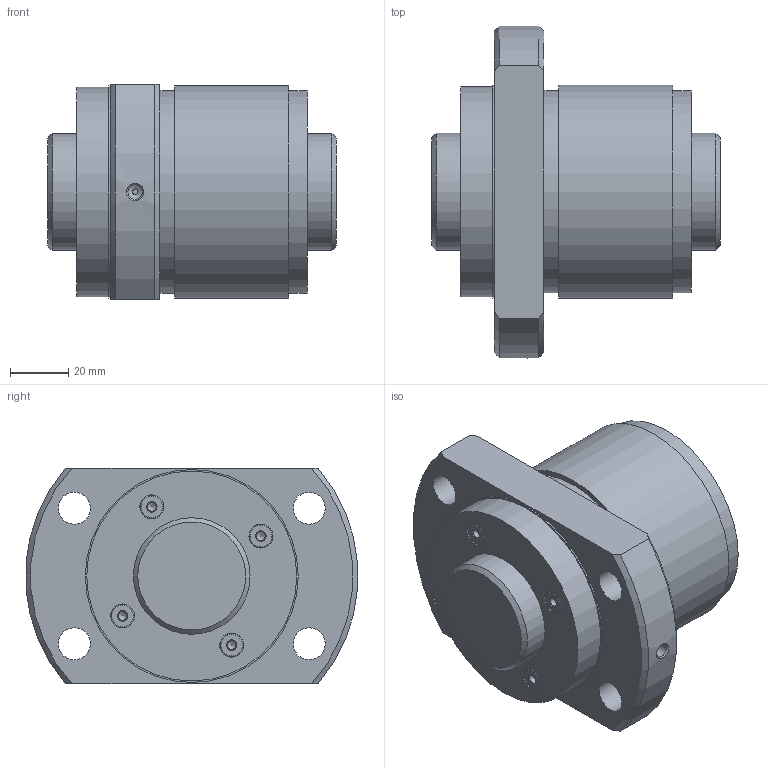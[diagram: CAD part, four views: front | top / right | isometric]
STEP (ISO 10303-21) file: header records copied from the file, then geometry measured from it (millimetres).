
FILE_DESCRIPTION(/* description */ ('STEP AP203'),/* implementation_level */ '2;1');
FILE_NAME(/* name */ 'WGF4080-1G1+99LC3_0_13_0_0',/* time_stamp */ '2025-01-16T06:27:02+01:00',/* author */ ('License CC BY-ND 4.0'),/* organization */ ('CADENAS'),/* preprocessor_version */ 'ST-DEVELOPER v19.3',/* originating_system */ 'PARTsolutions',/* authorisation */ ' ');
FILE_SCHEMA (('CONFIG_CONTROL_DESIGN'));
Length unit declared in the file: millimetre
Products named in the file (3): WGF4080-1G1+99LC3_0_13_0_0; 0130WGF4080-10Shaft; RR0130WGF4080-1Nut
Assembly tree (2 placements, depth 2):
  WGF4080-1G1+99LC3_0_13_0_0
    0130WGF4080-10Shaft
    RR0130WGF4080-1Nut
Bounding box: 99 x 113.82 x 74 mm (x, y, z)
Volume: 403160.4 mm3; surface area: 62029.8 mm2
Topology: 2 solids, 2 shells, 65 faces, 132 edges, 84 vertices
Faces by surface type: cylinder 26, plane 19, cone 16, torus 4
Full cylindrical faces by diameter (mm): 3 x4, 4.917 x1, 8 x4, 8.2 x4, 11 x4, 40 x2, 69.35 x2, 72 x1, 73 x2
Entity records: 1583 total; most frequent: DIRECTION 276, CARTESIAN_POINT 276, ORIENTED_EDGE 168, FACE_BOUND 134, AXIS2_PLACEMENT_3D 134, EDGE_LOOP 130, EDGE_CURVE 84, VERTEX_POINT 80
